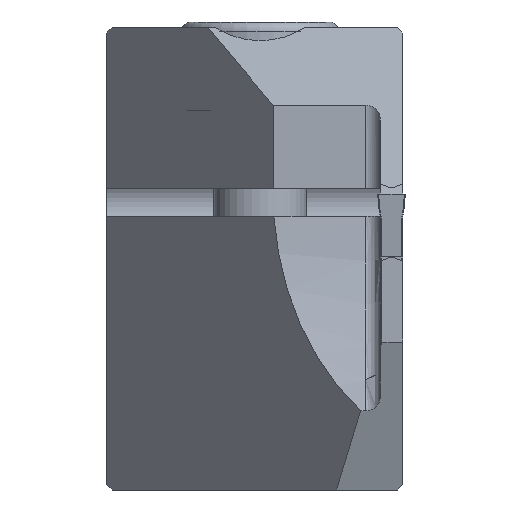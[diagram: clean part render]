
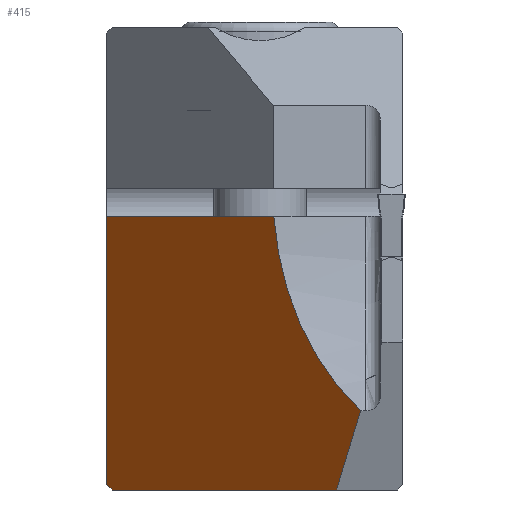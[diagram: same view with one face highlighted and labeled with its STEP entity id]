
A CAD part, left-side view. The second image highlights one B-rep face of the part: STEP entity #415.
In plain terms, the highlighted planar face has unit normal (-0.643, 0.766, 0).
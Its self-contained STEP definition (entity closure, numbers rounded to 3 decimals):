
#415=ADVANCED_FACE('',(#688),#583,.T.);
#583=PLANE('',#3326);
#688=FACE_OUTER_BOUND('',#862,.T.);
#862=EDGE_LOOP('',(#1313,#1314,#1315,#1316,#1317,#1318));
#1011=ELLIPSE('',#3258,19.581,15.);
#1313=ORIENTED_EDGE('',*,*,#2340,.T.);
#1314=ORIENTED_EDGE('',*,*,#2320,.F.);
#1315=ORIENTED_EDGE('',*,*,#2316,.F.);
#1316=ORIENTED_EDGE('',*,*,#2308,.F.);
#1317=ORIENTED_EDGE('',*,*,#2301,.F.);
#1318=ORIENTED_EDGE('',*,*,#2261,.F.);
#1959=VERTEX_POINT('',#4466);
#1960=VERTEX_POINT('',#4468);
#1987=VERTEX_POINT('',#4564);
#1991=VERTEX_POINT('',#4577);
#1998=VERTEX_POINT('',#4593);
#2001=VERTEX_POINT('',#4601);
#2261=EDGE_CURVE('',#1959,#1960,#2701,.T.);
#2301=EDGE_CURVE('',#1960,#1987,#1011,.T.);
#2308=EDGE_CURVE('',#1987,#1991,#2735,.T.);
#2316=EDGE_CURVE('',#1991,#1998,#2740,.T.);
#2320=EDGE_CURVE('',#1998,#2001,#2744,.T.);
#2340=EDGE_CURVE('',#1959,#2001,#2759,.T.);
#2701=LINE('',#4467,#2979);
#2735=LINE('',#4576,#3013);
#2740=LINE('',#4592,#3018);
#2744=LINE('',#4600,#3022);
#2759=LINE('',#4639,#3037);
#2979=VECTOR('',#3555,1.);
#3013=VECTOR('',#3629,1.);
#3018=VECTOR('',#3642,1.);
#3022=VECTOR('',#3648,1.);
#3037=VECTOR('',#3681,1.);
#3258=AXIS2_PLACEMENT_3D('',#4563,#3616,#3617);
#3326=AXIS2_PLACEMENT_3D('',#4751,#3822,#3823);
#3555=DIRECTION('',(-0.766,-0.643,0.));
#3616=DIRECTION('',(-0.643,0.766,0.));
#3617=DIRECTION('',(-0.766,-0.643,0.));
#3629=DIRECTION('',(0.329,0.276,-0.903));
#3642=DIRECTION('',(0.766,0.643,0.));
#3648=DIRECTION('',(0.644,0.541,0.541));
#3681=DIRECTION('',(0.,0.,-1.));
#3822=DIRECTION('',(-0.643,0.766,0.));
#3823=DIRECTION('',(-0.766,-0.643,0.));
#4466=CARTESIAN_POINT('',(18.226,16.,-1.2));
#4467=CARTESIAN_POINT('',(-0.348,0.415,-1.2));
#4468=CARTESIAN_POINT('',(7.452,6.96,-1.2));
#4563=CARTESIAN_POINT('',(-7.5,-5.586,0.));
#4564=CARTESIAN_POINT('',(1.856,2.264,-11.725));
#4576=CARTESIAN_POINT('',(1.849,2.258,-11.706));
#4577=CARTESIAN_POINT('',(3.412,3.57,-16.));
#4592=CARTESIAN_POINT('',(9.533,8.706,-16.));
#4593=CARTESIAN_POINT('',(17.868,15.7,-16.));
#4600=CARTESIAN_POINT('',(11.865,10.663,-21.037));
#4601=CARTESIAN_POINT('',(18.226,16.,-15.7));
#4639=CARTESIAN_POINT('',(18.226,16.,17.));
#4751=CARTESIAN_POINT('',(0.,0.707,17.));
